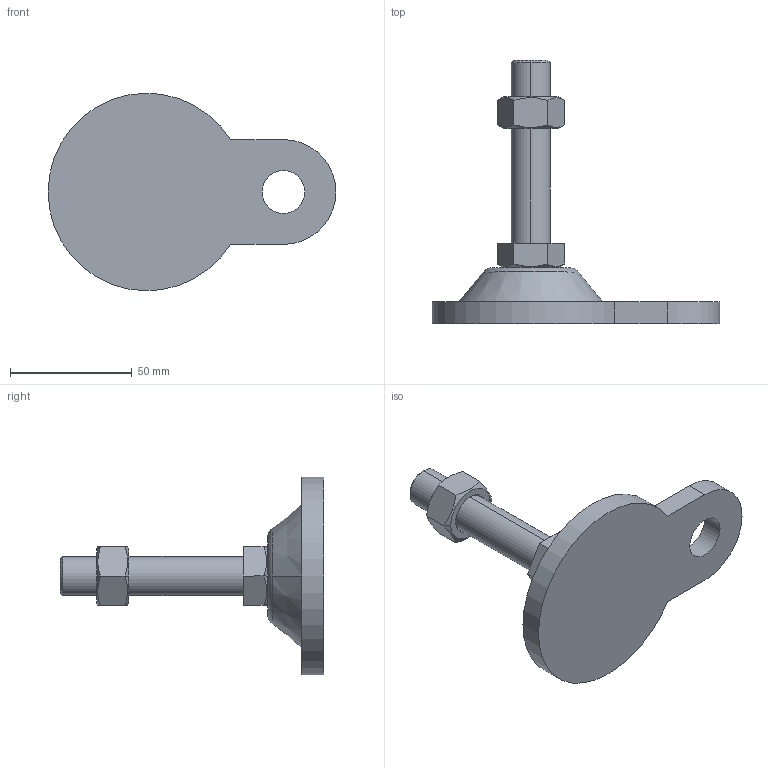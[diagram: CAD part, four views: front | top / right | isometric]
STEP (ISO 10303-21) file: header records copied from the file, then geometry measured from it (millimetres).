
FILE_DESCRIPTION (( 'STEP AP214' ), '1' );
FILE_NAME ('ARB81-M16-75.step', '2021-01-07T07:17:53', ( '' ), ( '' ), 'SwSTEP 2.0', 'SolidWorks 2019', '' );
FILE_SCHEMA (( 'AUTOMOTIVE_DESIGN' ));
Length unit declared in the file: millimetre
Products named in the file (1): ARB81-M16-75
Bounding box: 118 x 108 x 80.98 mm (x, y, z)
Volume: 106434.6 mm3; surface area: 24841.7 mm2
Topology: 3 solids, 3 shells, 46 faces, 100 edges, 62 vertices
Faces by surface type: plane 22, cone 14, cylinder 8, torus 2
Entity records: 1470 total; most frequent: CARTESIAN_POINT 407, DIRECTION 212, ORIENTED_EDGE 200, EDGE_CURVE 100, AXIS2_PLACEMENT_3D 83, VERTEX_POINT 62, EDGE_LOOP 52, LINE 46
